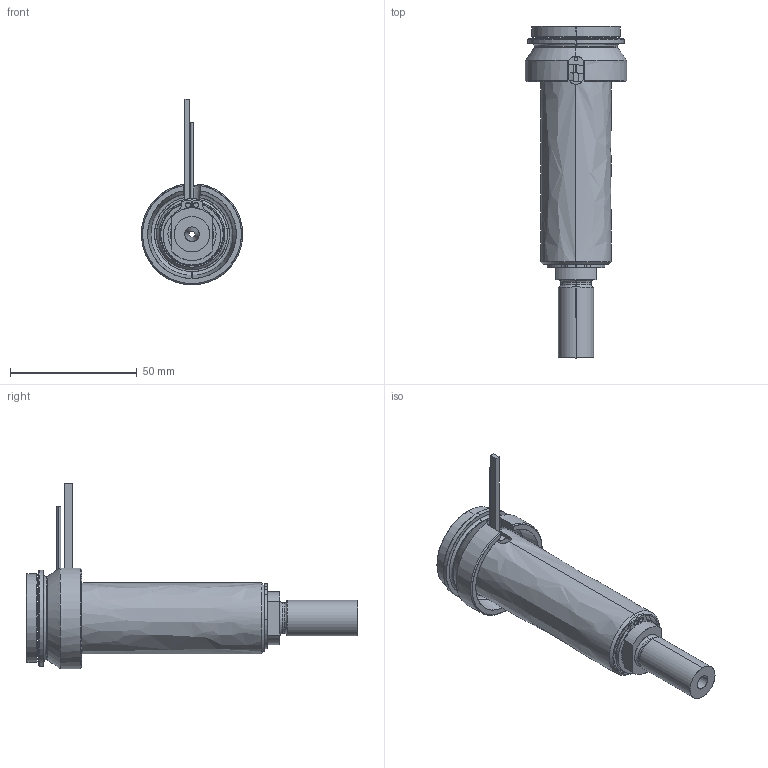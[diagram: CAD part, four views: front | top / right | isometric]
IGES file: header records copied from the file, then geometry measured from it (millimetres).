
Start section: SolidWorks IGES file using analytic representation for surfaces
Global section: file name: C:\Documents and Settings\ws-20\Desktop\TEMPORANEA\UGBE4002-S-A-P-3 [Ød-2.5 P-25 ØC-10].IGS; native system: SolidWorks 2012; preprocessor: SolidWorks 2012; author: ws-20; date: 120306.140732; units: millimetre
Bounding box: 40 x 131 x 73.3 mm (x, y, z)
Surface area: 34574.4 mm2 (no closed solid volume)
Topology: 0 solids, 0 shells, 109 faces, 1907 edges, 1907 vertices
Faces by surface type: revolution 66, bspline 43
